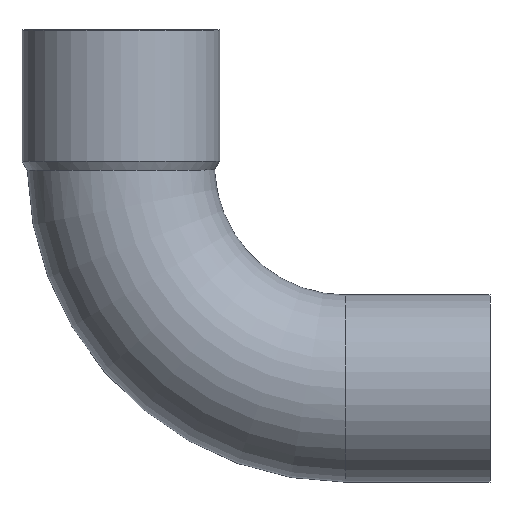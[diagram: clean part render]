
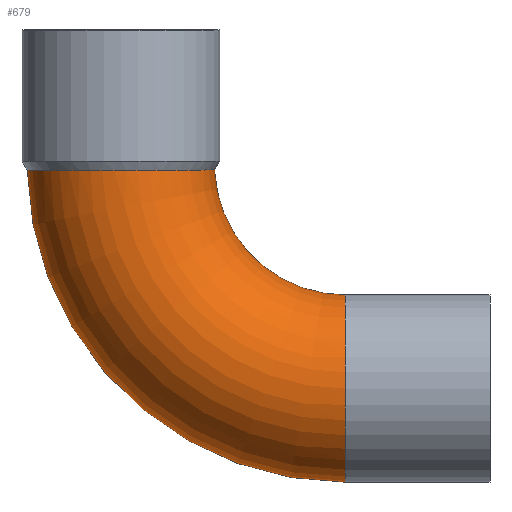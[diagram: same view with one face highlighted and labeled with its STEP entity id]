
A CAD part, front view. The second image highlights one B-rep face of the part: STEP entity #679.
In plain terms, the highlighted toroidal (fillet/blend) face has major radius 43.2 mm and minor radius 18 mm.
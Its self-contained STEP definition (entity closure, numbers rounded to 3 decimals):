
#49=CARTESIAN_POINT('',(-39.153,0.,-1.221));
#50=VERTEX_POINT('',#49);
#51=CARTESIAN_POINT('',(22.035,0.,-61.2));
#52=VERTEX_POINT('',#51);
#53=CARTESIAN_POINT('',(22.035,0.,0.0));
#54=DIRECTION('',(0.0,-1.0,0.0));
#55=DIRECTION('',(0.0,0.0,-1.0));
#56=AXIS2_PLACEMENT_3D('',#53,#54,#55);
#57=CIRCLE('',#56,61.2);
#58=EDGE_CURVE('',#50,#52,#57,.T.);
#60=CARTESIAN_POINT('',(-3.138,0.,-1.154));
#61=VERTEX_POINT('',#60);
#85=CARTESIAN_POINT('',(22.035,0.,-25.2));
#86=VERTEX_POINT('',#85);
#87=CARTESIAN_POINT('',(22.035,0.,0.0));
#88=DIRECTION('',(0.0,1.0,0.0));
#89=DIRECTION('',(0.0,0.0,-1.0));
#90=AXIS2_PLACEMENT_3D('',#87,#88,#89);
#91=CIRCLE('',#90,25.2);
#92=EDGE_CURVE('',#86,#61,#91,.T.);
#210=CARTESIAN_POINT('',(-3.138,0.,-1.154));
#211=CARTESIAN_POINT('',(-3.138,-0.156,-1.154));
#212=CARTESIAN_POINT('',(-3.141,-0.313,-1.154));
#213=CARTESIAN_POINT('',(-3.206,-2.812,-1.154));
#214=CARTESIAN_POINT('',(-3.724,-5.12,-1.157));
#215=CARTESIAN_POINT('',(-5.617,-9.409,-1.164));
#216=CARTESIAN_POINT('',(-6.974,-11.349,-1.168));
#217=CARTESIAN_POINT('',(-10.356,-14.599,-1.178));
#218=CARTESIAN_POINT('',(-12.349,-15.879,-1.183));
#219=CARTESIAN_POINT('',(-16.712,-17.602,-1.192));
#220=CARTESIAN_POINT('',(-19.041,-18.029,-1.197));
#221=CARTESIAN_POINT('',(-23.731,-17.967,-1.204));
#222=CARTESIAN_POINT('',(-26.047,-17.479,-1.207));
#223=CARTESIAN_POINT('',(-30.361,-15.642,-1.213));
#224=CARTESIAN_POINT('',(-32.318,-14.311,-1.215));
#225=CARTESIAN_POINT('',(-35.611,-10.974,-1.218));
#226=CARTESIAN_POINT('',(-36.916,-9.001,-1.219));
#227=CARTESIAN_POINT('',(-38.695,-4.665,-1.221));
#228=CARTESIAN_POINT('',(-39.153,-2.343,-1.221));
#229=CARTESIAN_POINT('',(-39.153,0.,-1.221));
#230=B_SPLINE_CURVE_WITH_KNOTS('',3,(#210,#211,#212,#213,#214,#215,#216,#217,#218,#219,#220,#221,#222,#223,#224,#225,#226,#227,#228,#229),.UNSPECIFIED.,.F.,.U.,(4,2,2,2,2,2,2,2,2,4),(-5.674,-5.627,-4.924,-4.22,-3.516,-2.813,-2.109,-1.406,-0.703,0.0),.UNSPECIFIED.);
#231=EDGE_CURVE('',#61,#50,#230,.T.);
#535=CARTESIAN_POINT('',(22.035,0.,-43.2));
#536=DIRECTION('',(-1.0,0.0,0.0));
#537=DIRECTION('',(0.0,0.0,-1.0));
#538=AXIS2_PLACEMENT_3D('',#535,#536,#537);
#539=CIRCLE('',#538,18.0);
#540=EDGE_CURVE('',#52,#86,#539,.T.);
#668=CARTESIAN_POINT('',(22.035,0.,0.0));
#669=DIRECTION('',(0.0,-1.0,0.0));
#670=DIRECTION('',(0.0,0.0,-1.0));
#671=AXIS2_PLACEMENT_3D('',#668,#669,#670);
#672=TOROIDAL_SURFACE('',#671,43.2,18.0);
#673=ORIENTED_EDGE('',*,*,#58,.T.);
#674=ORIENTED_EDGE('',*,*,#540,.T.);
#675=ORIENTED_EDGE('',*,*,#92,.T.);
#676=ORIENTED_EDGE('',*,*,#231,.T.);
#677=EDGE_LOOP('',(#673,#674,#675,#676));
#678=FACE_OUTER_BOUND('',#677,.T.);
#679=ADVANCED_FACE('',(#678),#672,.T.);
